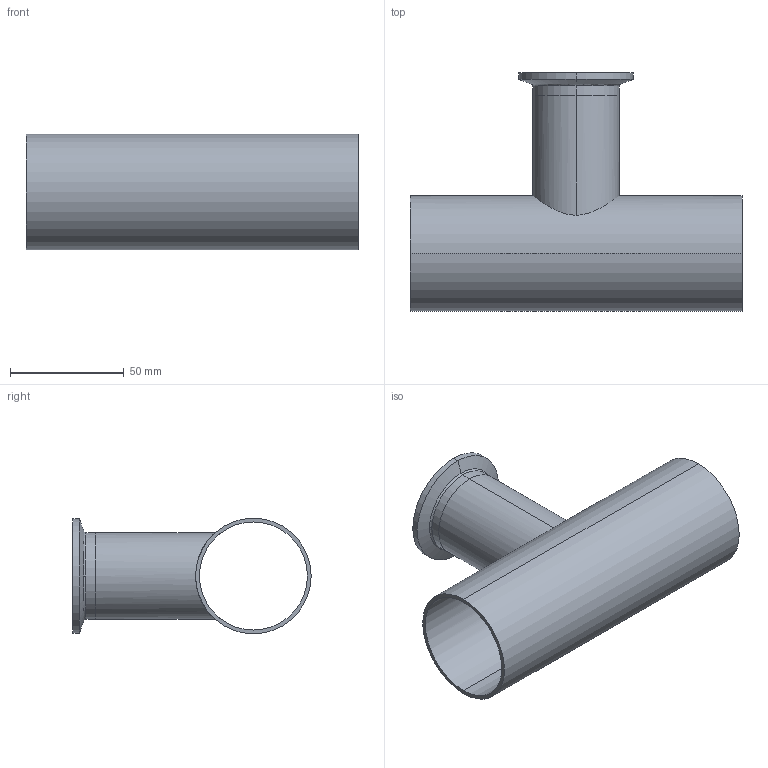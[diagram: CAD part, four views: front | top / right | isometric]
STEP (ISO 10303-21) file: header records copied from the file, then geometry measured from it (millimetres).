
FILE_DESCRIPTION (( 'STEP AP214' ), '1' );
FILE_NAME ('TE7RWWC6L2.0x1.5-...STEP', '2016-05-23T08:19:12', ( 'eran' ), ( '' ), 'SwSTEP 2.0', 'SolidWorks 2016', '' );
FILE_SCHEMA (( 'AUTOMOTIVE_DESIGN' ));
Length unit declared in the file: millimetre
Products named in the file (1): TE7RWWC6L2.0x1.5-..
Bounding box: 146 x 104.8 x 50.8 mm (x, y, z)
Volume: 49570.6 mm3; surface area: 58956.5 mm2
Topology: 2 solids, 2 shells, 36 faces, 88 edges, 58 vertices
Faces by surface type: cylinder 14, bspline 10, plane 6, cone 6
Entity records: 1996 total; most frequent: CARTESIAN_POINT 1091, DIRECTION 190, ORIENTED_EDGE 176, EDGE_CURVE 88, AXIS2_PLACEMENT_3D 85, CIRCLE 58, VERTEX_POINT 58, EDGE_LOOP 44
